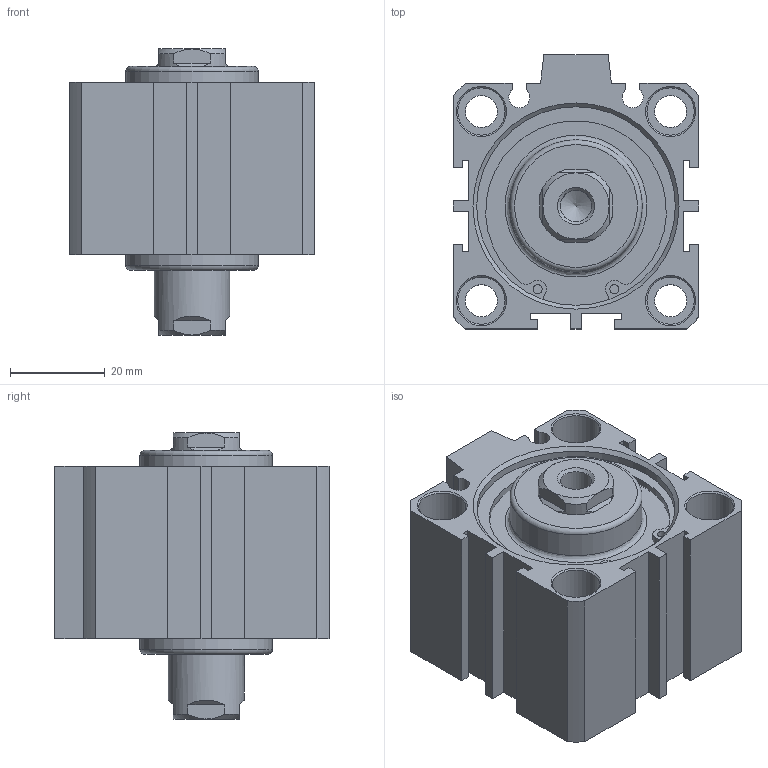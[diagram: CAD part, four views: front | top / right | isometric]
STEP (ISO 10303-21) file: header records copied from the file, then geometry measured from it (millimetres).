
FILE_DESCRIPTION((''),'2;1');
FILE_NAME('I:\3D電子目錄\氣缸\JDD\JDD\JDD40\JDD40x10.stp','2007-02-08T10:50:24',('662F206'),(''),'Autodesk Inventor 10','Autodesk Inventor 10','');
FILE_SCHEMA(('AUTOMOTIVE_DESIGN { 1 0 10303 214 1 1 1 1 }'));
Length unit declared in the file: millimetre
Products named in the file (3): JDD40; R 形環 42
Assembly tree (3 placements, depth 2):
  JDD40
    JDD40
    R 形環 42  x2
Bounding box: 52 x 58 x 60.5 mm (x, y, z)
Volume: 85835.4 mm3; surface area: 26403.5 mm2
Topology: 3 solids, 3 shells, 179 faces, 431 edges, 280 vertices
Faces by surface type: plane 98, cylinder 49, cone 24, bspline 6, torus 2
Full cylindrical faces by diameter (mm): 1.9 x4, 2.2 x2, 6.8 x4, 10 x8, 16 x1, 28 x2, 42 x4, 44.5 x2
Entity records: 4755 total; most frequent: CARTESIAN_POINT 955, DIRECTION 792, ORIENTED_EDGE 686, EDGE_CURVE 343, AXIS2_PLACEMENT_3D 298, VERTEX_POINT 251, EDGE_LOOP 250, VECTOR 196
